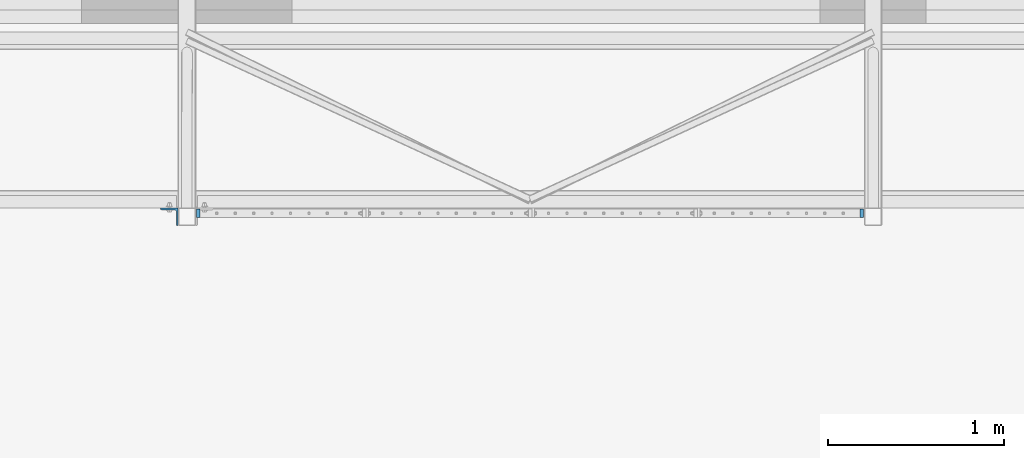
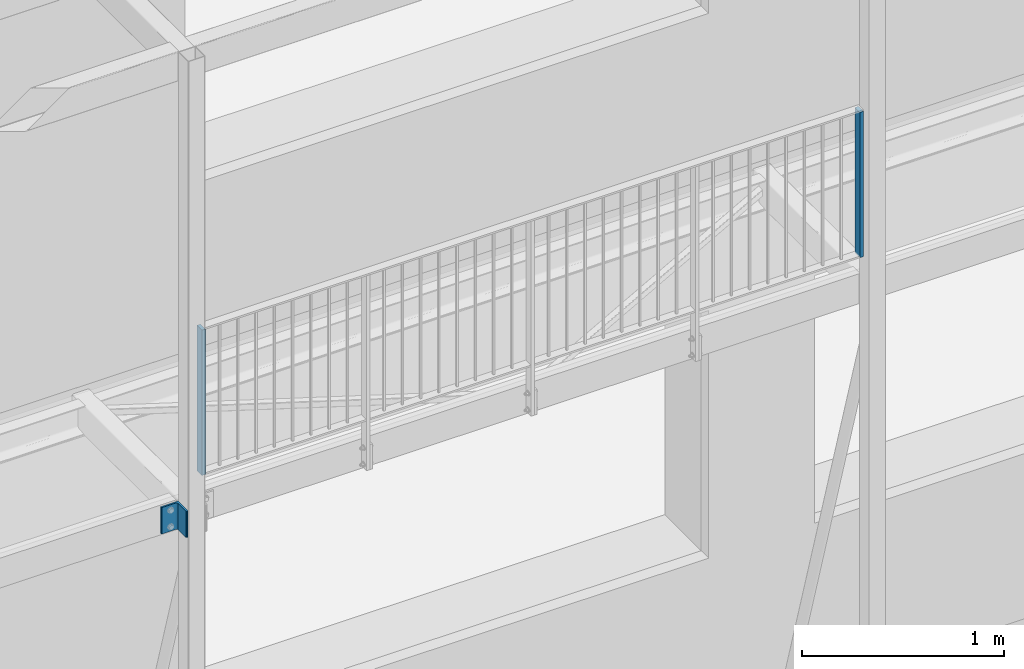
# One storey, part 14 of 78: 3 columns, 2 elements without a shape of their own.
"""IFC2X3 building model written with IfcOpenShell, lengths in millimetres."""

from ifc_helpers import new_model, si_unit, frame, origin_with_axes, origin_2d_with_axis, place, context, subcontext, project, spatial, rectangle, l_section, extrude, clip, halfspace, material, type_object, element, aggregate, save


model = new_model("IFC2X3")

# Units and contexts
model_context = context("Model", 3, precision=1e-05, world=origin_with_axes())
body_context = subcontext(model_context, "Body", "Model", "MODEL_VIEW")
ifc_project = project(units=[si_unit("LENGTHUNIT", "METRE", prefix="MILLI"), si_unit("AREAUNIT", "SQUARE_METRE"), si_unit("VOLUMEUNIT", "CUBIC_METRE"), si_unit("MASSUNIT", "GRAM", prefix="KILO"), si_unit("TIMEUNIT", "SECOND"), si_unit("PLANEANGLEUNIT", "RADIAN"), si_unit("SOLIDANGLEUNIT", "STERADIAN"), si_unit("THERMODYNAMICTEMPERATUREUNIT", "DEGREE_CELSIUS"), si_unit("LUMINOUSINTENSITYUNIT", "LUMEN")], contexts=[model_context])

# Site, building, storey
site_placement = place(None, origin_with_axes())
site = spatial("IfcSite", under=ifc_project, at=site_placement, Name="Site", CompositionType="ELEMENT")
building_placement = place(site_placement, origin_with_axes())
building = spatial("IfcBuilding", under=site, at=building_placement, Name="Undefined", CompositionType="ELEMENT")
storey_placement = place(building_placement, origin_with_axes())
storey = spatial("IfcBuildingStorey", under=building, at=storey_placement, Name="Undefined", CompositionType="ELEMENT", Elevation=0.0)

# Assembly, columns
assembly_1_placement = place(storey_placement, origin_with_axes())
assembly_1 = element("IfcElementAssembly", 1, at=assembly_1_placement, inside=storey, Name="MAIN_COURANTE", AssemblyPlace="NOTDEFINED", PredefinedType="RIGID_FRAME")
ifc_material = material(Name="STEEL/S235JR")
column_type_1 = type_object("IfcColumnType", Name="PL20*50", PredefinedType="NOTDEFINED")
column_1_placement = place(assembly_1_placement, frame((-18850.0, -8643.0, 160110.04), z_axis=(0.0, 0.0, 1.0), x_axis=(0.0, 1.0, 0.0)))
column_1 = element("IfcColumn", 2, at=column_1_placement, type_object=column_type_1, material=ifc_material, Name="MONTANT", ObjectType="PL20*50", context=body_context, shape_type="Clipping", body=[
    clip(extrude(rectangle(XDim=20.0, YDim=50.0, at=origin_2d_with_axis()), frame((0.0, 0.0, 890.0), z_axis=(0.0, 0.0, -1.0), x_axis=(0.0, 1.0, 0.0)), (0.0, 0.0, 1.0), 890.0), halfspace(frame((0.0, 0.0, 880.0), z_axis=(0.0, 0.0, 1.0), x_axis=(-1.0, 0.0, 0.0)), False)),
])
column_2_placement = place(assembly_1_placement, frame((-22620.0, -8643.0, 160110.04), z_axis=(0.0, 0.0, 1.0), x_axis=(0.0, 1.0, 0.0)))
column_2 = element("IfcColumn", 3, at=column_2_placement, type_object=column_type_1, material=ifc_material, Name="MONTANT", ObjectType="PL20*50", context=body_context, shape_type="Clipping", body=[
    clip(extrude(rectangle(XDim=20.0, YDim=50.0, at=origin_2d_with_axis()), frame((0.0, 0.0, 890.0), z_axis=(0.0, 0.0, -1.0), x_axis=(0.0, 1.0, 0.0)), (0.0, 0.0, 1.0), 890.0), halfspace(frame((0.0, 0.0, 880.0), z_axis=(0.0, 0.0, 1.0), x_axis=(-1.0, 0.0, 0.0)), False)),
])
aggregate(assembly_1, [column_1, column_2])

# Assembly, column
assembly_2_placement = place(storey_placement, origin_with_axes())
assembly_2 = element("IfcElementAssembly", 4, at=assembly_2_placement, inside=storey, Name="CONSOLE", AssemblyPlace="NOTDEFINED", PredefinedType="RIGID_FRAME")
column_type_2 = type_object("IfcColumnType", Name="L100*10", PredefinedType="NOTDEFINED")
column_3_placement = place(assembly_2_placement, frame((-22785.0039835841, -8663.0, 159800.04), z_axis=(0.0, 0.0, 1.0), x_axis=(-1.0, 0.0, 0.0)))
column_3 = element("IfcColumn", 5, at=column_3_placement, type_object=column_type_2, material=ifc_material, Name="CORNIERE", ObjectType="L100*10", context=body_context, shape_type="SweptSolid", body=[
    extrude(l_section(Depth=100.0, Width=100.0, Thickness=10.0, FilletRadius=12.0, EdgeRadius=6.0, at=origin_2d_with_axis()), frame((0.0, 0.0, 160.0), z_axis=(0.0, 0.0, -1.0), x_axis=(0.0, 1.0, 0.0)), (0.0, 0.0, 1.0), 160.0),
])
aggregate(assembly_2, [column_3])

save(model, "model.ifc")
